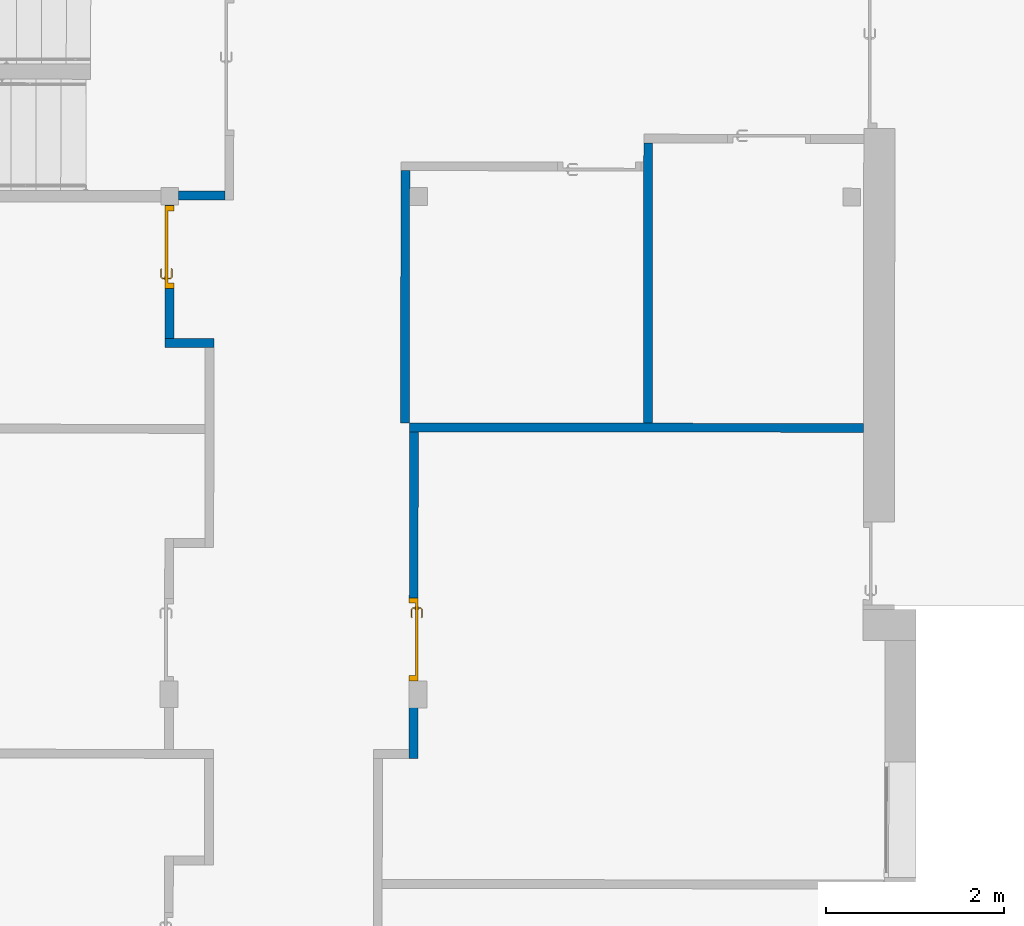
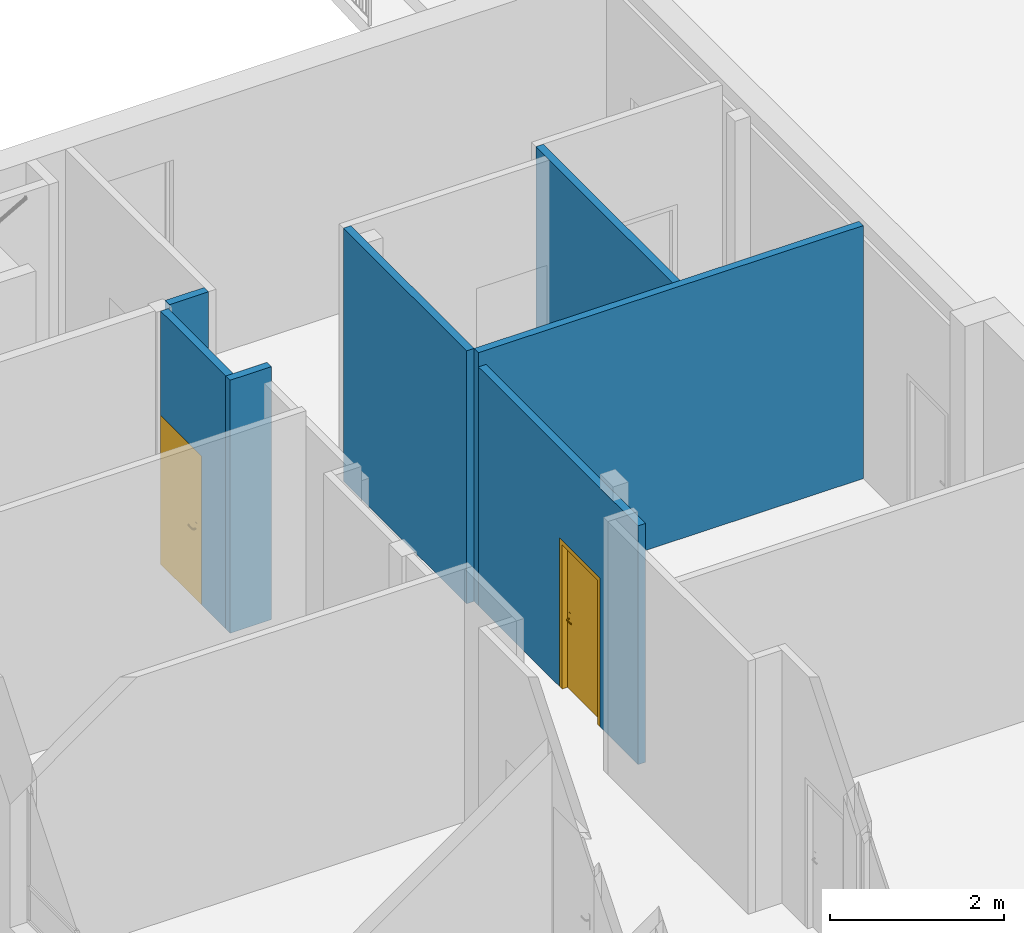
# One storey, part 86 of 101: 7 walls, 2 doors, 2 openings.
"""IFC2X3 building model written with IfcOpenShell, lengths in metres."""

from ifc_helpers import new_model, entity, si_unit, converted_unit, derived_unit, direction, frame, frame_2d, origin, place, context, subcontext, project, spatial, polyline, rectangle, extrude, clip, bounded_halfspace, faceted_brep, source, transform, mapped, material, material_list, layer, layer_set, layer_usage, type_object, type_shapes, element, fill, save


model = new_model("IFC2X3")

# Units and contexts
model_context = context("Model", 3, precision=1e-05, world=origin(), true_north=direction((6.123233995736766e-17, 1.0)))
body_context = subcontext(model_context, "Body", "Model", "MODEL_VIEW")
ifc_project = project(units=[si_unit("LENGTHUNIT", "METRE"), si_unit("AREAUNIT", "SQUARE_METRE"), converted_unit("PLANEANGLEUNIT", "DEGREE", entity("IfcPlaneAngleMeasure", 0.017453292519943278), si_unit("PLANEANGLEUNIT", "RADIAN"), dimensions=[0, 0, 0, 0, 0, 0, 0]), derived_unit("THERMALTRANSMITTANCEUNIT", [(si_unit("MASSUNIT", "GRAM", prefix="KILO"), 1), (si_unit("THERMODYNAMICTEMPERATUREUNIT", "KELVIN"), -1), (si_unit("TIMEUNIT", "SECOND"), -3)])], contexts=[model_context])

# Site, building, storey
site_placement = place(None, frame((1253.6752467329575, 2072.143113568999, 91.49999999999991), z_axis=(0.0, 0.0, 1.0), x_axis=(0.7237211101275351, 0.6900925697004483, 0.0)))
site = spatial("IfcSite", under=ifc_project, at=site_placement, Name="Surface", CompositionType="ELEMENT")
building_placement = place(site_placement, origin())
building = spatial("IfcBuilding", under=site, at=building_placement, CompositionType="ELEMENT")
storey_placement = place(building_placement, origin())
storey = spatial("IfcBuildingStorey", under=building, at=storey_placement, Name="0- Rdc", CompositionType="ELEMENT", Elevation=-5.764692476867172e-13)

# Walls
ifc_material_1 = material(Name="OMD_Béton blanc")
ifc_layer = layer(ifc_material_1, 0.1)
ifc_layer_set = layer_set([ifc_layer], Name="Mur de base:MUR 10")
ifc_layer_usage_1 = layer_usage(ifc_layer_set, "AXIS2", "NEGATIVE", 0.05)
wall_type = type_object("IfcWallType", Name="Mur de base:MUR 10", PredefinedType="STANDARD", material=ifc_layer_set)
wall_1_placement = place(storey_placement, frame((193.6550747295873, -3.455891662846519, 0.0), z_axis=(0.0, 0.0, 1.0), x_axis=(-0.7228702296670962, 0.6909838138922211, 0.0)))
element("IfcWallStandardCase", 1, at=wall_1_placement, inside=storey, type_object=wall_type, material=ifc_layer_usage_1, Name="Mur de base:MUR 10", ObjectType="Mur de base:MUR 10", context=body_context, shape_type="SweptSolid", body=[
    extrude(rectangle(XDim=0.51999999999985, YDim=0.10000000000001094, at=frame_2d((0.259999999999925, -2.6055546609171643e-15), x_axis=(-1.0, 0.0))), origin(), (0.0, 0.0, 1.0), 3.5499999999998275),
])
ifc_layer_usage_2 = layer_usage(ifc_layer_set, "AXIS2", "NEGATIVE", 0.05)
wall_2_placement = place(storey_placement, frame((197.50778233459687, -6.315690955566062, 0.0), z_axis=(0.0, 0.0, 1.0), x_axis=(-0.6909838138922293, -0.7228702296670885, 0.0)))
element("IfcWallStandardCase", 2, at=wall_2_placement, inside=storey, type_object=wall_type, material=ifc_layer_usage_2, Name="Mur de base:MUR 10", ObjectType="Mur de base:MUR 10", context=body_context, shape_type="SweptSolid", body=[
    extrude(rectangle(XDim=3.149894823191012, YDim=0.10000000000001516, at=frame_2d((1.574947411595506, 1.321859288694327e-15), x_axis=(-1.0, 0.0))), origin(), (0.0, 0.0, 1.0), 3.5499999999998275),
])
ifc_layer_usage_3 = layer_usage(ifc_layer_set, "AXIS2", "NEGATIVE", 0.05)
wall_3_placement = place(storey_placement, frame((195.31719707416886, -4.654908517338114, 0.0), z_axis=(0.0, 0.0, 1.0), x_axis=(-0.6909838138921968, -0.7228702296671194, 0.0)))
element("IfcWallStandardCase", 3, at=wall_3_placement, inside=storey, type_object=wall_type, material=ifc_layer_usage_3, Name="Mur de base:MUR 10", ObjectType="Mur de base:MUR 10", context=body_context, shape_type="SweptSolid", body=[
    extrude(rectangle(XDim=2.8367660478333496, YDim=0.10000000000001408, at=frame_2d((1.4183830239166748, 3.1814828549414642e-15), x_axis=(-1.0, 0.0))), origin(), (0.0, 0.0, 1.0), 3.5499999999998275),
])
ifc_layer_usage_4 = layer_usage(ifc_layer_set, "AXIS2", "NEGATIVE", 0.05)
wall_4_placement = place(storey_placement, frame((197.04909508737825, -10.303888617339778, 0.0), z_axis=(0.0, 0.0, 1.0), x_axis=(-0.7228702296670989, 0.6909838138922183, 0.0)))
element("IfcWallStandardCase", 4, at=wall_4_placement, inside=storey, type_object=wall_type, material=ifc_layer_usage_4, Name="Mur de base:MUR 10", ObjectType="Mur de base:MUR 10", context=body_context, shape_type="SweptSolid", body=[
    extrude(rectangle(XDim=5.105291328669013, YDim=0.1000000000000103, at=frame_2d((2.5526456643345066, 3.157196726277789e-15), x_axis=(-1.0, 0.0))), origin(), (0.0, 0.0, 1.0), 3.5499999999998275),
])

# Wall, opening, door
ifc_layer_usage_5 = layer_usage(ifc_layer_set, "AXIS2", "NEGATIVE", 0.05)
wall_5_placement = place(storey_placement, frame((193.36022629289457, -6.846907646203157, 0.0), z_axis=(0.0, 0.0, 1.0), x_axis=(-0.6909838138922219, -0.7228702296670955, 0.0)))
wall_5 = element("IfcWallStandardCase", 5, at=wall_5_placement, inside=storey, type_object=wall_type, material=ifc_layer_usage_5, Name="Mur de base:MUR 10", ObjectType="Mur de base:MUR 10", context=body_context, shape_type="Clipping", body=[
    clip(extrude(rectangle(XDim=3.675000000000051, YDim=0.10000000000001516, at=frame_2d((1.8375000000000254, -1.1171619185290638e-15), x_axis=(-1.0, 0.0))), origin(), (0.0, 0.0, 1.0), 3.3499999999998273), bounded_halfspace(frame((0.0, -0.04999999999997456, 3.3499999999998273), z_axis=(0.0, 0.0, -1.0), x_axis=(1.0, 0.0, 0.0)), True, frame((0.0, -0.04999999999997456, 3.3499999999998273)), polyline([(0.0, 0.0), (3.675000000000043, 0.0), (3.675000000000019, 0.09999999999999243), (0.0, 0.09999999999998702), (0.0, 0.0)]))),
])
opening_1_placement = place(wall_5_placement, frame((1.8674999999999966, -0.04999999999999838, 0.0)))
opening_1 = element("IfcOpeningElement", 6, at=opening_1_placement, cuts=wall_5, Name="OMD_Porte 1V tunnel:80x204:1", ObjectType="Opening", context=body_context, shape_type="SweptSolid", body=[
    extrude(rectangle(XDim=2.0850000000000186, YDim=0.9349999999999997, at=frame_2d((1.0425000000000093, 0.46750000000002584), x_axis=(1.0, 0.0))), frame((0.0, 0.0, 0.0), z_axis=(0.0, 1.0, 0.0), x_axis=(0.0, 0.0, 1.0)), (0.0, 0.0, 1.0), 0.1),
])
ifc_material_2 = material(Name="Porte - Poignée")
ifc_material_3 = material(Name="OMD_Peinture mur")
ifc_material_4 = material(Name="OMD_Bois")
ifc_material_list = material_list([ifc_material_2, ifc_material_3, ifc_material_4])
door_style = type_object("IfcDoorStyle", Name="OMD_Porte 1V tunnel:80x204", ConstructionType="NOTDEFINED", OperationType="NOTDEFINED", ParameterTakesPrecedence=False, Sizeable=False, material=ifc_material_list)
shared_shape = source(origin(), body_context, "Body", "Brep", [
    faceted_brep([(0.8220252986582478, 0.03500000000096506, 1.0077804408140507), (0.8179747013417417, 0.03500000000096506, 1.007780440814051), (0.8139999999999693, 0.03500000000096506, 1.00699999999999), (0.8139999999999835, 0.03500000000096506, 0.9930000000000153), (0.8179747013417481, 0.03500000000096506, 0.9922195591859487), (0.8220252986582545, 0.03500000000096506, 0.9922195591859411), (0.8260000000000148, 0.03500000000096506, 0.9929999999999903), (0.826000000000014, 0.03500000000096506, 1.006999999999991), (0.8139999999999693, 0.05748520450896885, 1.00699999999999), (0.8139999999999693, 0.05748520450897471, 0.9930000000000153), (0.8179747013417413, 0.059131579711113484, 1.007780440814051), (0.8220252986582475, 0.060809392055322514, 1.0077804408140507), (0.8058389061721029, 0.07699578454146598, 1.0077804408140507), (0.8041610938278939, 0.07294518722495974, 1.007780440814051), (0.7207931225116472, 0.07294518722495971, 1.0077804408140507), (0.7191153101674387, 0.07699578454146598, 1.0077804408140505), (0.7114510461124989, 0.06933152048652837, 1.0077804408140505), (0.714315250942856, 0.0664673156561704, 1.0077804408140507), (0.8260000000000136, 0.062455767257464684, 1.006999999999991), (0.8260000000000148, 0.062455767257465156, 0.9929999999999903), (0.8220252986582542, 0.06080939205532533, 0.9922195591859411), (0.8179747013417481, 0.05913157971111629, 0.9922195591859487), (0.8041610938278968, 0.07294518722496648, 0.9922195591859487), (0.8058389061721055, 0.07699578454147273, 0.9922195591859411), (0.7191153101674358, 0.07699578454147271, 0.9922195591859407), (0.7207931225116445, 0.07294518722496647, 0.9922195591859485), (0.7143152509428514, 0.06646731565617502, 0.9922195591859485), (0.7114510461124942, 0.06933152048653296, 0.9922195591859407), (0.8025147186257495, 0.06897048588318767, 1.00699999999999), (0.8025147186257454, 0.06897048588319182, 0.9930000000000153), (0.8074852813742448, 0.08097048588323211, 1.006999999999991), (0.8074852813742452, 0.08097048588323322, 0.9929999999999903), (0.7624771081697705, 0.06897048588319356, 1.0069999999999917), (0.7224394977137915, 0.06897048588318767, 1.0069999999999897), (0.7224394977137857, 0.0689704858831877, 0.9930000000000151), (0.7624771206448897, 0.06897048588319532, 0.9930000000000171), (0.7624771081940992, 0.07512492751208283, 1.0078781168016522), (0.7573994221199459, 0.08097048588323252, 1.0069999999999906), (0.7174689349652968, 0.08097048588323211, 1.0069999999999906), (0.7675547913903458, 0.08097048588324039, 0.9929999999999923), (0.7174689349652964, 0.08097048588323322, 0.99299999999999), (0.762477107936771, 0.07512492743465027, 0.9921218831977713), (0.7086405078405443, 0.07214205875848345, 1.0069999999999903), (0.7086405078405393, 0.07214205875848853, 0.9929999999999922), (0.7171257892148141, 0.06365677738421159, 0.9930000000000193), (0.71712578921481, 0.06365677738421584, 1.0069999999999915)], [[[0, 1, 2, 3, 4, 5, 6, 7]], [[8, 9, 3, 2]], [[1, 10, 8, 2]], [[1, 0, 11, 12, 13, 10]], [[14, 15, 16, 17]], [[7, 18, 11, 0]], [[18, 7, 6, 19]], [[6, 5, 20, 19]], [[5, 4, 21, 22, 23, 20]], [[24, 25, 26, 27]], [[4, 3, 9, 21]], [[28, 29, 9, 8]], [[8, 10, 13, 28]], [[18, 30, 12, 11]], [[31, 30, 18, 19]], [[19, 20, 23, 31]], [[21, 9, 29, 22]], [[29, 28, 32, 33, 34, 35]], [[36, 32, 13]], [[37, 38, 15]], [[37, 12, 30]], [[36, 12, 37]], [[14, 32, 36]], [[36, 15, 14]], [[28, 13, 32]], [[32, 14, 33]], [[12, 36, 13]], [[15, 36, 37]], [[30, 31, 39, 40, 38, 37]], [[23, 41, 39]], [[24, 39, 41]], [[39, 31, 23]], [[39, 24, 40]], [[22, 35, 41]], [[41, 23, 22]], [[41, 35, 25]], [[35, 22, 29]], [[34, 25, 35]], [[24, 41, 25]], [[17, 16, 42, 43, 27, 26, 44, 45]], [[45, 44, 34, 33]], [[33, 14, 17, 45]], [[15, 38, 42, 16]], [[43, 42, 38, 40]], [[24, 27, 43, 40]], [[34, 44, 26, 25]]]),
    faceted_brep([(0.817974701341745, -0.004999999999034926, 1.007780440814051), (0.8220252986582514, -0.004999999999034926, 1.0077804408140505), (0.8260000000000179, -0.004999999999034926, 1.0069999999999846), (0.8260000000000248, -0.004999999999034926, 0.9929999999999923), (0.8220252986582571, -0.004999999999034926, 0.992219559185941), (0.817974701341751, -0.004999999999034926, 0.9922195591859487), (0.8139999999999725, -0.004999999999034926, 0.9930000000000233), (0.8139999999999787, -0.004999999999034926, 1.006999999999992), (0.8220252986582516, -0.03100457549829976, 1.0077804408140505), (0.8260000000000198, -0.03265095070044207, 1.0069999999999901), (0.8179747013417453, -0.02932676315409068, 1.007780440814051), (0.8042986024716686, -0.04300286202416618, 1.007780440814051), (0.8059764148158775, -0.04705345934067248, 1.0077804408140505), (0.7191424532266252, -0.04705345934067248, 1.0077804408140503), (0.7208202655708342, -0.04300286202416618, 1.0077804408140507), (0.714342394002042, -0.03652499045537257, 1.0077804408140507), (0.7114781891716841, -0.039389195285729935, 1.0077804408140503), (0.813999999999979, -0.02768038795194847, 1.006999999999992), (0.8139999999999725, -0.02768038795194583, 0.9930000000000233), (0.817974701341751, -0.029326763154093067, 0.9922195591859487), (0.8220252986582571, -0.031004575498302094, 0.992219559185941), (0.8059764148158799, -0.0470534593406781, 0.992219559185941), (0.804298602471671, -0.04300286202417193, 0.9922195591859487), (0.7208202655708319, -0.04300286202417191, 0.9922195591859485), (0.7191424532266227, -0.047053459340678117, 0.9922195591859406), (0.71147818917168, -0.03938919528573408, 0.9922195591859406), (0.7143423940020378, -0.036524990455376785, 0.9922195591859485), (0.8260000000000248, -0.032650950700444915, 0.9929999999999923), (0.807622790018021, -0.051028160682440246, 1.0069999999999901), (0.8026522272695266, -0.03902816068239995, 1.006999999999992), (0.8026522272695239, -0.03902816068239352, 0.9930000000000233), (0.8076227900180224, -0.05102816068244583, 0.9929999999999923), (0.762559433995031, -0.0451828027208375, 1.0078781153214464), (0.7676923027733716, -0.05102816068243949, 1.0069999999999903), (0.7174960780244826, -0.05102816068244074, 1.00699999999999), (0.7625594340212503, -0.03902816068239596, 1.0069999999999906), (0.7224666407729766, -0.039028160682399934, 1.0069999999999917), (0.7625594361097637, -0.03902816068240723, 0.9930000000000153), (0.7224666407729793, -0.03902816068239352, 0.9930000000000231), (0.7625594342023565, -0.04518280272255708, 0.9921218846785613), (0.7574265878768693, -0.051028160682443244, 0.9929999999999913), (0.7174960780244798, -0.05102816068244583, 0.9929999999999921), (0.7171529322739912, -0.033714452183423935, 0.9930000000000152), (0.7086676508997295, -0.04219973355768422, 0.9929999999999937), (0.7086676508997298, -0.04219973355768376, 1.0069999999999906), (0.717152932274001, -0.03371445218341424, 1.0069999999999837)], [[[0, 1, 2, 3, 4, 5, 6, 7]], [[2, 1, 8, 9]], [[1, 0, 10, 11, 12, 8]], [[13, 14, 15, 16]], [[0, 7, 17, 10]], [[18, 17, 7, 6]], [[5, 19, 18, 6]], [[5, 4, 20, 21, 22, 19]], [[23, 24, 25, 26]], [[3, 27, 20, 4]], [[9, 27, 3, 2]], [[9, 8, 12, 28]], [[10, 17, 29, 11]], [[30, 29, 17, 18]], [[18, 19, 22, 30]], [[20, 27, 31, 21]], [[28, 31, 27, 9]], [[12, 32, 33]], [[13, 33, 32]], [[33, 28, 12]], [[33, 13, 34]], [[11, 35, 32]], [[32, 12, 11]], [[32, 35, 14]], [[35, 11, 29]], [[36, 14, 35]], [[13, 32, 14]], [[29, 30, 37, 38, 36, 35]], [[39, 37, 22]], [[40, 41, 24]], [[40, 21, 31]], [[39, 21, 40]], [[23, 37, 39]], [[39, 24, 23]], [[30, 22, 37]], [[37, 23, 38]], [[21, 39, 22]], [[24, 39, 40]], [[31, 28, 33, 34, 41, 40]], [[42, 26, 25, 43, 44, 16, 15, 45]], [[13, 16, 44, 34]], [[36, 45, 15, 14]], [[42, 45, 36, 38]], [[38, 23, 26, 42]], [[24, 41, 43, 25]], [[44, 43, 41, 34]]]),
    faceted_brep([(0.8199999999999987, 0.030000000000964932, 0.8646410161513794), (0.8303527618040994, 0.03000000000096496, 0.866003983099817), (0.8399999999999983, 0.030000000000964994, 0.8700000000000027), (0.8399999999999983, 0.030000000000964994, 1.0800000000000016), (0.8303527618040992, 0.03000000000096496, 1.0839960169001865), (0.8199999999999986, 0.030000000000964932, 1.0853589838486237), (0.809647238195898, 0.030000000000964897, 1.0839960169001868), (0.7999999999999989, 0.030000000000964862, 1.0800000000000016), (0.7999999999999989, 0.030000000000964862, 0.8700000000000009), (0.8096472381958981, 0.030000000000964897, 0.8660039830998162), (0.8199999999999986, 0.03500000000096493, 1.0853589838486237), (0.8303527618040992, 0.03500000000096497, 1.0839960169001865), (0.8399999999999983, 0.035000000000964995, 1.0800000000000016), (0.8399999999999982, 0.035000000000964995, 0.8700000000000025), (0.8303527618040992, 0.03500000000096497, 0.866003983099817), (0.8199999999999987, 0.03500000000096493, 0.8646410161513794), (0.8096472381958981, 0.0350000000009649, 0.8660039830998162), (0.7999999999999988, 0.03500000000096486, 0.8700000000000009), (0.7999999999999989, 0.03500000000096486, 1.0800000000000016), (0.809647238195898, 0.0350000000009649, 1.0839960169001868)], [[[0, 1, 2, 3, 4, 5, 6, 7, 8, 9]], [[10, 11, 12, 13, 14, 15, 16, 17, 18, 19]], [[6, 19, 18, 7]], [[5, 10, 19, 6]], [[4, 11, 10, 5]], [[4, 3, 12, 11]], [[12, 3, 2, 13]], [[1, 14, 13, 2]], [[0, 15, 14, 1]], [[9, 16, 15, 0]], [[9, 8, 17, 16]], [[17, 8, 7, 18]]]),
    faceted_brep([(0.819999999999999, -0.004999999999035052, 0.8646410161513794), (0.8303527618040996, -0.0049999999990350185, 0.8660039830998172), (0.8399999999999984, -0.004999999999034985, 0.8700000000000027), (0.8399999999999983, -0.004999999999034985, 1.0800000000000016), (0.8303527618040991, -0.0049999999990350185, 1.0839960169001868), (0.8199999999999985, -0.004999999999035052, 1.0853589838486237), (0.8096472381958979, -0.004999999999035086, 1.0839960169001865), (0.7999999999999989, -0.004999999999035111, 1.0800000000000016), (0.7999999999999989, -0.004999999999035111, 0.8700000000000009), (0.8096472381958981, -0.004999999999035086, 0.8660039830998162), (0.8399999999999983, 0.0, 1.0800000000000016), (0.8399999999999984, 0.0, 0.8700000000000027), (0.8303527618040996, 0.0, 0.8660039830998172), (0.819999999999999, 0.0, 0.8646410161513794), (0.8096472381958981, 0.0, 0.8660039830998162), (0.7999999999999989, 0.0, 0.8700000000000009), (0.7999999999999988, 0.0, 1.0800000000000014), (0.8096472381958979, 0.0, 1.0839960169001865), (0.8199999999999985, 0.0, 1.0853589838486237), (0.8303527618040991, 0.0, 1.0839960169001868)], [[[0, 1, 2, 3, 4, 5, 6, 7, 8, 9]], [[10, 11, 12, 13, 14, 15, 16, 17, 18, 19]], [[1, 12, 11, 2]], [[0, 13, 12, 1]], [[9, 14, 13, 0]], [[9, 8, 15, 14]], [[15, 8, 7, 16]], [[6, 17, 16, 7]], [[5, 18, 17, 6]], [[4, 19, 18, 5]], [[4, 3, 10, 19]], [[10, 3, 2, 11]]]),
    faceted_brep([(0.89, 0.030000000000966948, 0.0), (0.89, 0.0, 0.0), (0.04500000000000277, 0.0, 0.0), (0.04500000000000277, 0.030000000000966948, 0.0), (0.89, 0.030000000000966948, 2.04), (0.89, 0.0, 2.04), (0.04500000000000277, 0.0, 2.04), (0.04500000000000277, 0.030000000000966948, 2.04)], [[[0, 1, 2, 3]], [[4, 5, 1, 0]], [[5, 6, 2, 1]], [[6, 7, 3, 2]], [[7, 4, 0, 3]], [[4, 7, 6, 5]]]),
    faceted_brep([(0.9350000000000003, 0.0, 0.0), (0.89, 0.0, 0.0), (0.8900000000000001, 0.03000000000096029, 0.0), (0.8750000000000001, 0.030000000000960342, 0.0), (0.8750000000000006, 0.10000000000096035, 0.0), (0.9350000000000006, 0.10000000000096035, 0.0), (0.9350000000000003, 0.0, 2.085), (0.0, 0.0, 2.085), (0.0, 0.0, 0.0), (0.04500000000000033, 0.0, 0.0), (0.04500000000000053, 0.0, 2.04), (0.8899999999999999, 0.0, 2.0399999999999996), (0.89, 0.030000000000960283, 2.0399999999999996), (0.0450000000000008, 0.03000000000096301, 2.0399999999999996), (0.0450000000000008, 0.030000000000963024, 0.0), (0.060000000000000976, 0.030000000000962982, 0.0), (0.060000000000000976, 0.03000000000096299, 2.0249999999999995), (0.8750000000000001, 0.03000000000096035, 2.025), (0.8750000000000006, 0.10000000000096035, 2.0250000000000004), (0.060000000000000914, 0.10000000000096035, 2.025), (0.060000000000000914, 0.10000000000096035, 0.0), (0.0, 0.10000000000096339, 0.0), (0.0, 0.10000000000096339, 2.085), (0.9350000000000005, 0.10000000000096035, 2.085)], [[[0, 1, 2, 3, 4, 5]], [[1, 0, 6, 7, 8, 9, 10, 11]], [[2, 1, 11, 12]], [[3, 2, 12, 13, 14, 15, 16, 17]], [[4, 3, 17, 18]], [[5, 4, 18, 19, 20, 21, 22, 23]], [[0, 5, 23, 6]], [[7, 22, 21, 8]], [[8, 21, 20, 15, 14, 9]], [[13, 10, 9, 14]], [[19, 16, 15, 20]], [[12, 11, 10, 13]], [[18, 17, 16, 19]], [[6, 23, 22, 7]]]),
])
type_shapes(door_style, [shared_shape])
door_1_placement = place(opening_1_placement, frame((0.9350000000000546, 0.0999999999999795, 0.0), z_axis=(0.0, 0.0, 1.0), x_axis=(-1.0, 0.0, 0.0)))
door_1 = element("IfcDoor", 7, at=door_1_placement, inside=storey, type_object=door_style, material=ifc_material_list, Name="OMD_Porte 1V tunnel:80x204", ObjectType="OMD_Porte 1V tunnel:80x204", OverallHeight=2.0850000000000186, OverallWidth=0.9350000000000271, context=body_context, shape_type="MappedRepresentation", body=[
    mapped(shared_shape, transform((0.0, 0.0, 0.0), scale=1.0)),
])
fill(opening_1, door_1)

ifc_layer_usage_6 = layer_usage(ifc_layer_set, "AXIS2", "NEGATIVE", 0.05)
wall_6_placement = place(storey_placement, frame((193.1308869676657, -3.1069974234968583, 0.0), z_axis=(0.0, 0.0, 1.0), x_axis=(-0.6909838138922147, -0.7228702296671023, 0.0)))
wall_6 = element("IfcWallStandardCase", 8, at=wall_6_placement, inside=storey, type_object=wall_type, material=ifc_layer_usage_6, Name="Mur de base:MUR 10", ObjectType="Mur de base:MUR 10", context=body_context, shape_type="SweptSolid", body=[
    extrude(rectangle(XDim=1.499999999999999, YDim=0.1000000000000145, at=frame_2d((0.7499999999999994, 2.588207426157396e-15), x_axis=(-1.0, 0.0))), origin(), (0.0, 0.0, 1.0), 3.5499999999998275),
])
opening_2_placement = place(wall_6_placement, frame((0.9375000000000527, 0.04999999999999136, 0.0)))
opening_2 = element("IfcOpeningElement", 9, at=opening_2_placement, cuts=wall_6, Name="OMD_Porte 1V tunnel:80x204:1", ObjectType="Opening", context=body_context, shape_type="SweptSolid", body=[
    extrude(rectangle(XDim=2.0850000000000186, YDim=0.9349999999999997, at=frame_2d((1.0425000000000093, 0.46750000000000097), x_axis=(1.0, 0.0))), frame((0.0, 0.0, 0.0), z_axis=(0.0, -1.0, 0.0), x_axis=(0.0, 0.0, 1.0)), (0.0, 0.0, 1.0), 0.09999999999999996),
])
door_2_placement = place(opening_2_placement, frame((-0.9349999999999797, -0.10000000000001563, 0.0)))
door_2 = element("IfcDoor", 10, at=door_2_placement, inside=storey, type_object=door_style, material=ifc_material_list, Name="OMD_Porte 1V tunnel:80x204", ObjectType="OMD_Porte 1V tunnel:80x204", OverallHeight=2.0850000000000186, OverallWidth=0.9350000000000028, context=body_context, shape_type="MappedRepresentation", body=[
    mapped(shared_shape, transform((0.0, 0.0, 0.0), scale=1.0)),
])
fill(opening_2, door_2)

# Wall
ifc_layer_usage_7 = layer_usage(ifc_layer_set, "AXIS2", "NEGATIVE", 0.05)
wall_7_placement = place(storey_placement, frame((192.02371854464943, -4.192897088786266, 0.0), z_axis=(0.0, 0.0, 1.0), x_axis=(0.7228702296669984, -0.6909838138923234, 0.0)))
element("IfcWallStandardCase", 11, at=wall_7_placement, inside=storey, type_object=wall_type, material=ifc_layer_usage_7, Name="Mur de base:MUR 10", ObjectType="Mur de base:MUR 10", context=body_context, shape_type="SweptSolid", body=[
    extrude(rectangle(XDim=0.5500000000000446, YDim=0.10000000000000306, at=frame_2d((0.2750000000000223, -6.83481049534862e-16), x_axis=(-1.0, 0.0))), origin(), (0.0, 0.0, 1.0), 3.5499999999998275),
])

save(model, "model.ifc")
